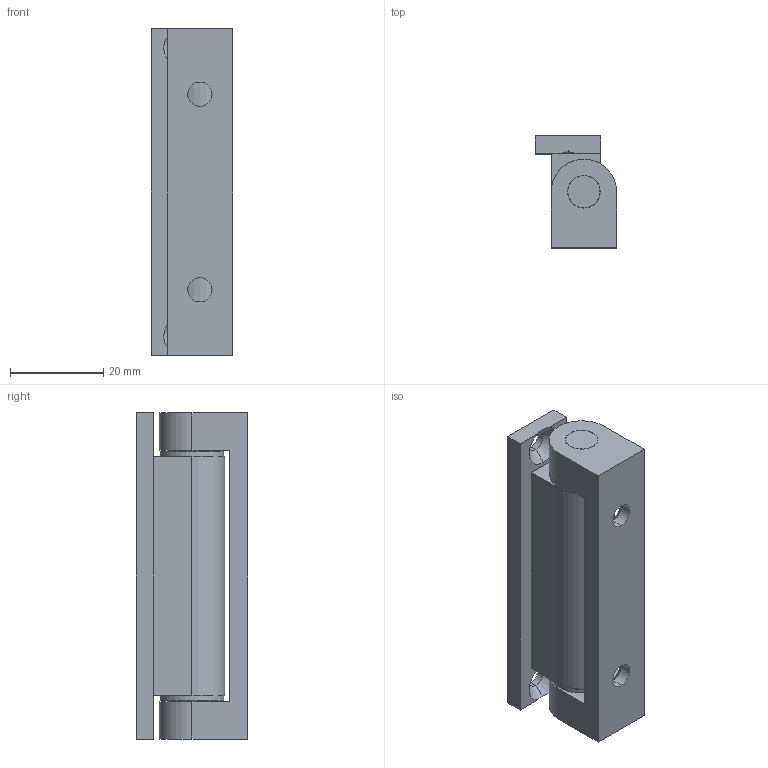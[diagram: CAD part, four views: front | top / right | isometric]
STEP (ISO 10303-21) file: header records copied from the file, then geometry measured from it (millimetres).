
FILE_DESCRIPTION (( 'STEP AP203' ), '1' );
FILE_NAME ('XG02-081-2.STEP', '2023-12-11T03:15:50', ( '' ), ( '' ), 'SwSTEP 2.0', 'SolidWorks 2020', '' );
FILE_SCHEMA (( 'CONFIG_CONTROL_DESIGN' ));
Length unit declared in the file: millimetre
Products named in the file (5): XG02-081-2; HL027-2-2; HL027-2-A (2); HL027-2-3; HL027-4
Assembly tree (5 placements, depth 2):
  XG02-081-2
    HL027-4  x2
    HL027-2-A (2)
    HL027-2-3
    HL027-2-2
Bounding box: 17.4 x 24 x 70 mm (x, y, z)
Volume: 18937.9 mm3; surface area: 12630.5 mm2
Topology: 5 solids, 5 shells, 80 faces, 187 edges, 122 vertices
Faces by surface type: cylinder 42, plane 30, cone 8
Entity records: 2678 total; most frequent: DIRECTION 403, CARTESIAN_POINT 378, ORIENTED_EDGE 338, EDGE_CURVE 169, AXIS2_PLACEMENT_3D 159, VERTEX_POINT 110, EDGE_LOOP 91, LINE 85
